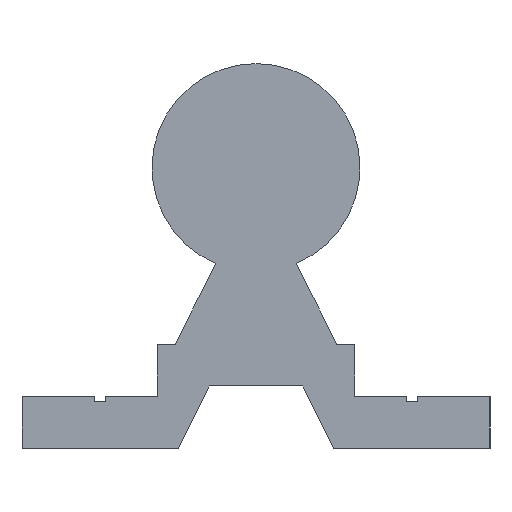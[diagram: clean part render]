
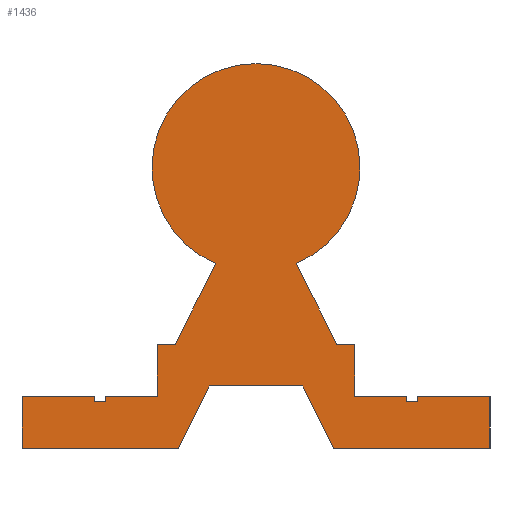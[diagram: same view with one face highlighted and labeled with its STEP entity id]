
A CAD part, left-side view. The second image highlights one B-rep face of the part: STEP entity #1436.
In plain terms, the highlighted planar face has unit normal (-1, 0, 0).
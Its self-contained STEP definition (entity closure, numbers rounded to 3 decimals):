
#36=LINE('',#2043,#146);
#46=LINE('',#2084,#156);
#68=LINE('',#2273,#178);
#74=LINE('',#2316,#184);
#77=LINE('',#2327,#187);
#80=LINE('',#2350,#190);
#83=LINE('',#2370,#193);
#99=LINE('',#2417,#209);
#103=LINE('',#2425,#213);
#106=LINE('',#2431,#216);
#109=LINE('',#2437,#219);
#112=LINE('',#2443,#222);
#115=LINE('',#2448,#225);
#117=LINE('',#2451,#227);
#118=LINE('',#2454,#228);
#121=LINE('',#2460,#231);
#124=LINE('',#2466,#234);
#127=LINE('',#2473,#237);
#131=LINE('',#2481,#241);
#134=LINE('',#2486,#244);
#136=LINE('',#2489,#246);
#137=LINE('',#2492,#247);
#140=LINE('',#2497,#250);
#146=VECTOR('',#1625,10.);
#156=VECTOR('',#1647,10.);
#178=VECTOR('',#1785,10.);
#184=VECTOR('',#1819,10.);
#187=VECTOR('',#1828,10.);
#190=VECTOR('',#1851,10.);
#193=VECTOR('',#1872,10.);
#209=VECTOR('',#1930,10.);
#213=VECTOR('',#1936,10.);
#216=VECTOR('',#1941,10.);
#219=VECTOR('',#1946,10.);
#222=VECTOR('',#1951,10.);
#225=VECTOR('',#1956,10.);
#227=VECTOR('',#1960,10.);
#228=VECTOR('',#1963,10.);
#231=VECTOR('',#1968,10.);
#234=VECTOR('',#1973,10.);
#237=VECTOR('',#1978,10.);
#241=VECTOR('',#1984,10.);
#244=VECTOR('',#1989,10.);
#246=VECTOR('',#1993,10.);
#247=VECTOR('',#1996,10.);
#250=VECTOR('',#2001,10.);
#300=PLANE('',#1604);
#374=FACE_OUTER_BOUND('',#456,.T.);
#456=EDGE_LOOP('',(#1323,#1324,#1325,#1326,#1327,#1328,#1329,#1330,#1331,
#1332,#1333,#1334,#1335,#1336,#1337,#1338,#1339,#1340,#1341,#1342,#1343,
#1344,#1345,#1346));
#529=CIRCLE('',#1601,10.);
#573=VERTEX_POINT('',#2040);
#574=VERTEX_POINT('',#2042);
#586=VERTEX_POINT('',#2081);
#587=VERTEX_POINT('',#2083);
#638=VERTEX_POINT('',#2270);
#639=VERTEX_POINT('',#2272);
#650=VERTEX_POINT('',#2315);
#652=VERTEX_POINT('',#2325);
#658=VERTEX_POINT('',#2347);
#659=VERTEX_POINT('',#2349);
#664=VERTEX_POINT('',#2369);
#673=VERTEX_POINT('',#2415);
#674=VERTEX_POINT('',#2416);
#677=VERTEX_POINT('',#2424);
#679=VERTEX_POINT('',#2430);
#681=VERTEX_POINT('',#2436);
#683=VERTEX_POINT('',#2442);
#685=VERTEX_POINT('',#2453);
#687=VERTEX_POINT('',#2459);
#689=VERTEX_POINT('',#2465);
#691=VERTEX_POINT('',#2471);
#692=VERTEX_POINT('',#2472);
#695=VERTEX_POINT('',#2480);
#697=VERTEX_POINT('',#2491);
#710=EDGE_CURVE('',#573,#574,#36,.T.);
#726=EDGE_CURVE('',#586,#587,#46,.T.);
#804=EDGE_CURVE('',#638,#639,#68,.T.);
#823=EDGE_CURVE('',#587,#650,#74,.T.);
#828=EDGE_CURVE('',#652,#573,#77,.T.);
#839=EDGE_CURVE('',#658,#659,#80,.T.);
#849=EDGE_CURVE('',#639,#664,#83,.T.);
#870=EDGE_CURVE('',#673,#674,#99,.T.);
#874=EDGE_CURVE('',#677,#673,#103,.T.);
#877=EDGE_CURVE('',#679,#677,#106,.T.);
#880=EDGE_CURVE('',#681,#679,#109,.T.);
#883=EDGE_CURVE('',#683,#681,#112,.T.);
#886=EDGE_CURVE('',#659,#683,#115,.T.);
#888=EDGE_CURVE('',#664,#658,#117,.T.);
#889=EDGE_CURVE('',#685,#638,#118,.T.);
#892=EDGE_CURVE('',#687,#685,#121,.T.);
#895=EDGE_CURVE('',#689,#687,#124,.T.);
#898=EDGE_CURVE('',#691,#692,#127,.T.);
#902=EDGE_CURVE('',#695,#691,#131,.T.);
#905=EDGE_CURVE('',#574,#695,#134,.T.);
#907=EDGE_CURVE('',#650,#652,#136,.T.);
#908=EDGE_CURVE('',#697,#586,#137,.T.);
#911=EDGE_CURVE('',#674,#697,#140,.T.);
#913=EDGE_CURVE('',#692,#689,#529,.T.);
#1323=ORIENTED_EDGE('',*,*,#913,.F.);
#1324=ORIENTED_EDGE('',*,*,#898,.F.);
#1325=ORIENTED_EDGE('',*,*,#902,.F.);
#1326=ORIENTED_EDGE('',*,*,#905,.F.);
#1327=ORIENTED_EDGE('',*,*,#710,.F.);
#1328=ORIENTED_EDGE('',*,*,#828,.F.);
#1329=ORIENTED_EDGE('',*,*,#907,.F.);
#1330=ORIENTED_EDGE('',*,*,#823,.F.);
#1331=ORIENTED_EDGE('',*,*,#726,.F.);
#1332=ORIENTED_EDGE('',*,*,#908,.F.);
#1333=ORIENTED_EDGE('',*,*,#911,.F.);
#1334=ORIENTED_EDGE('',*,*,#870,.F.);
#1335=ORIENTED_EDGE('',*,*,#874,.F.);
#1336=ORIENTED_EDGE('',*,*,#877,.F.);
#1337=ORIENTED_EDGE('',*,*,#880,.F.);
#1338=ORIENTED_EDGE('',*,*,#883,.F.);
#1339=ORIENTED_EDGE('',*,*,#886,.F.);
#1340=ORIENTED_EDGE('',*,*,#839,.F.);
#1341=ORIENTED_EDGE('',*,*,#888,.F.);
#1342=ORIENTED_EDGE('',*,*,#849,.F.);
#1343=ORIENTED_EDGE('',*,*,#804,.F.);
#1344=ORIENTED_EDGE('',*,*,#889,.F.);
#1345=ORIENTED_EDGE('',*,*,#892,.F.);
#1346=ORIENTED_EDGE('',*,*,#895,.F.);
#1436=ADVANCED_FACE('',(#374),#300,.F.);
#1601=AXIS2_PLACEMENT_3D('',#2500,#2005,#2006);
#1604=AXIS2_PLACEMENT_3D('',#2503,#2011,#2012);
#1625=DIRECTION('',(0.,-1.,0.));
#1647=DIRECTION('',(0.,-1.,0.));
#1785=DIRECTION('',(0.,-1.,0.));
#1819=DIRECTION('',(0.,0.,-1.));
#1828=DIRECTION('',(0.,0.,1.));
#1851=DIRECTION('',(0.,0.,1.));
#1872=DIRECTION('',(0.,0.,-1.));
#1930=DIRECTION('',(0.,0.447,-0.894));
#1936=DIRECTION('',(0.,1.,0.));
#1941=DIRECTION('',(0.,0.447,0.894));
#1946=DIRECTION('',(0.,1.,0.));
#1951=DIRECTION('',(0.,0.,-1.));
#1956=DIRECTION('',(0.,-1.,0.));
#1960=DIRECTION('',(0.,-1.,0.));
#1963=DIRECTION('',(0.,0.,-1.));
#1968=DIRECTION('',(0.,-1.,0.));
#1973=DIRECTION('',(0.,-0.447,-0.894));
#1978=DIRECTION('',(0.,-0.447,0.894));
#1984=DIRECTION('',(0.,-1.,0.));
#1989=DIRECTION('',(0.,0.,1.));
#1993=DIRECTION('',(0.,-1.,0.));
#1996=DIRECTION('',(0.,0.,1.));
#2001=DIRECTION('',(0.,1.,0.));
#2005=DIRECTION('center_axis',(1.,0.,0.));
#2006=DIRECTION('ref_axis',(0.,1.,0.));
#2011=DIRECTION('center_axis',(1.,0.,0.));
#2012=DIRECTION('ref_axis',(0.,0.,-1.));
#2040=CARTESIAN_POINT('',(0.,14.5,5.));
#2042=CARTESIAN_POINT('',(0.,9.5,5.));
#2043=CARTESIAN_POINT('',(0.,14.5,5.));
#2081=CARTESIAN_POINT('',(0.,22.5,5.));
#2083=CARTESIAN_POINT('',(0.,15.5,5.));
#2084=CARTESIAN_POINT('',(0.,22.5,5.));
#2270=CARTESIAN_POINT('',(0.,-9.5,5.));
#2272=CARTESIAN_POINT('',(0.,-14.5,5.));
#2273=CARTESIAN_POINT('',(0.,-9.5,5.));
#2315=CARTESIAN_POINT('',(0.,15.5,4.5));
#2316=CARTESIAN_POINT('',(0.,15.5,5.));
#2325=CARTESIAN_POINT('',(0.,14.5,4.5));
#2327=CARTESIAN_POINT('',(0.,14.5,4.5));
#2347=CARTESIAN_POINT('',(0.,-15.5,4.5));
#2349=CARTESIAN_POINT('',(0.,-15.5,5.));
#2350=CARTESIAN_POINT('',(0.,-15.5,4.5));
#2369=CARTESIAN_POINT('',(0.,-14.5,4.5));
#2370=CARTESIAN_POINT('',(0.,-14.5,5.));
#2415=CARTESIAN_POINT('',(0.,4.5,6.));
#2416=CARTESIAN_POINT('',(0.,7.5,0.));
#2417=CARTESIAN_POINT('',(0.,4.5,6.));
#2424=CARTESIAN_POINT('',(0.,-4.5,6.));
#2425=CARTESIAN_POINT('',(0.,-4.5,6.));
#2430=CARTESIAN_POINT('',(0.,-7.5,0.));
#2431=CARTESIAN_POINT('',(0.,-7.5,0.));
#2436=CARTESIAN_POINT('',(0.,-22.5,0.));
#2437=CARTESIAN_POINT('',(0.,-22.5,0.));
#2442=CARTESIAN_POINT('',(0.,-22.5,5.));
#2443=CARTESIAN_POINT('',(0.,-22.5,5.));
#2448=CARTESIAN_POINT('',(0.,-15.5,5.));
#2451=CARTESIAN_POINT('',(0.,-14.5,4.5));
#2453=CARTESIAN_POINT('',(0.,-9.5,10.));
#2454=CARTESIAN_POINT('',(0.,-9.5,10.));
#2459=CARTESIAN_POINT('',(0.,-7.766,10.));
#2460=CARTESIAN_POINT('',(0.,-7.766,10.));
#2465=CARTESIAN_POINT('',(0.,-3.875,17.781));
#2466=CARTESIAN_POINT('',(0.,-3.875,17.781));
#2471=CARTESIAN_POINT('',(0.,7.766,10.));
#2472=CARTESIAN_POINT('',(0.,3.875,17.781));
#2473=CARTESIAN_POINT('',(0.,7.766,10.));
#2480=CARTESIAN_POINT('',(0.,9.5,10.));
#2481=CARTESIAN_POINT('',(0.,9.5,10.));
#2486=CARTESIAN_POINT('',(0.,9.5,5.));
#2489=CARTESIAN_POINT('',(0.,15.5,4.5));
#2491=CARTESIAN_POINT('',(0.,22.5,0.));
#2492=CARTESIAN_POINT('',(0.,22.5,0.));
#2497=CARTESIAN_POINT('',(0.,7.5,0.));
#2500=CARTESIAN_POINT('Origin',(0.,0.,27.));
#2503=CARTESIAN_POINT('Origin',(0.,0.,27.));
